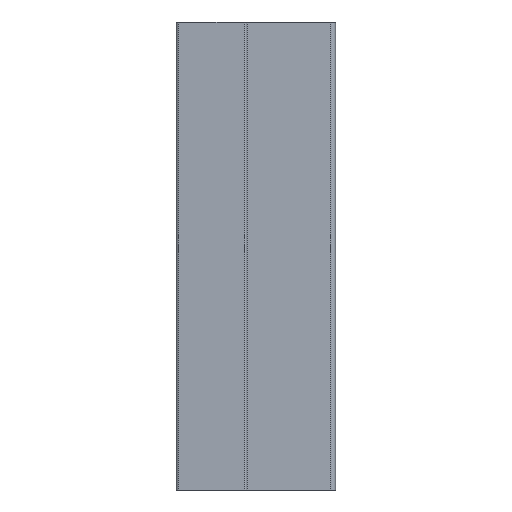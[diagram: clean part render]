
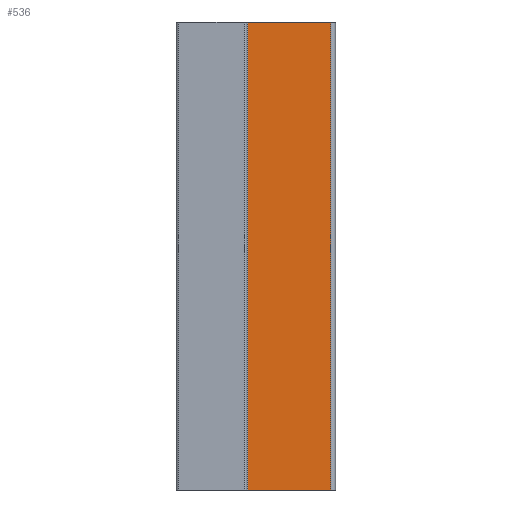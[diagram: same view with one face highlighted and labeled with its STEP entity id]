
A CAD part, left-side view. The second image highlights one B-rep face of the part: STEP entity #536.
In plain terms, the highlighted planar face has unit normal (-1, 0, 0).
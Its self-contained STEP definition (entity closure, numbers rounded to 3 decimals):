
#15=PLANE('',#587);
#32=FACE_OUTER_BOUND('',#61,.T.);
#61=EDGE_LOOP('',(#364,#365,#366,#367));
#89=LINE('',#812,#144);
#91=LINE('',#818,#146);
#92=LINE('',#820,#147);
#93=LINE('',#821,#148);
#144=VECTOR('',#645,10.);
#146=VECTOR('',#651,10.);
#147=VECTOR('',#652,10.);
#148=VECTOR('',#653,10.);
#226=VERTEX_POINT('',#809);
#227=VERTEX_POINT('',#811);
#229=VERTEX_POINT('',#817);
#230=VERTEX_POINT('',#819);
#280=EDGE_CURVE('',#226,#227,#89,.T.);
#283=EDGE_CURVE('',#226,#229,#91,.T.);
#284=EDGE_CURVE('',#230,#229,#92,.T.);
#285=EDGE_CURVE('',#230,#227,#93,.T.);
#364=ORIENTED_EDGE('',*,*,#280,.F.);
#365=ORIENTED_EDGE('',*,*,#283,.T.);
#366=ORIENTED_EDGE('',*,*,#284,.F.);
#367=ORIENTED_EDGE('',*,*,#285,.T.);
#536=ADVANCED_FACE('',(#32),#15,.T.);
#587=AXIS2_PLACEMENT_3D('',#816,#649,#650);
#645=DIRECTION('',(0.,0.,1.));
#649=DIRECTION('center_axis',(-1.,0.,0.));
#650=DIRECTION('ref_axis',(0.,0.,1.));
#651=DIRECTION('',(0.,-1.,0.));
#652=DIRECTION('',(0.,0.,-1.));
#653=DIRECTION('',(0.,1.,0.));
#809=CARTESIAN_POINT('',(-7.008,-0.2,0.));
#811=CARTESIAN_POINT('',(-7.008,-0.2,100.));
#812=CARTESIAN_POINT('',(-7.008,-0.2,0.));
#816=CARTESIAN_POINT('Origin',(-7.008,-19.,0.));
#817=CARTESIAN_POINT('',(-7.008,-17.996,0.));
#818=CARTESIAN_POINT('',(-7.008,0.,0.));
#819=CARTESIAN_POINT('',(-7.008,-17.996,100.));
#820=CARTESIAN_POINT('',(-7.008,-17.996,0.));
#821=CARTESIAN_POINT('',(-7.008,0.,100.));
